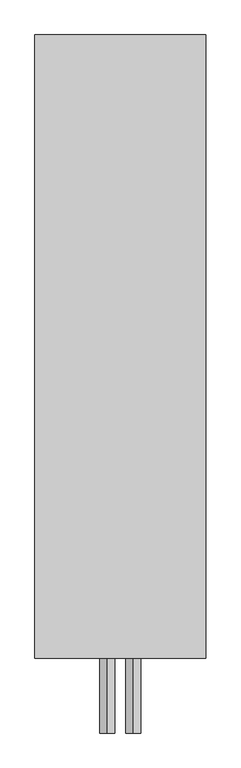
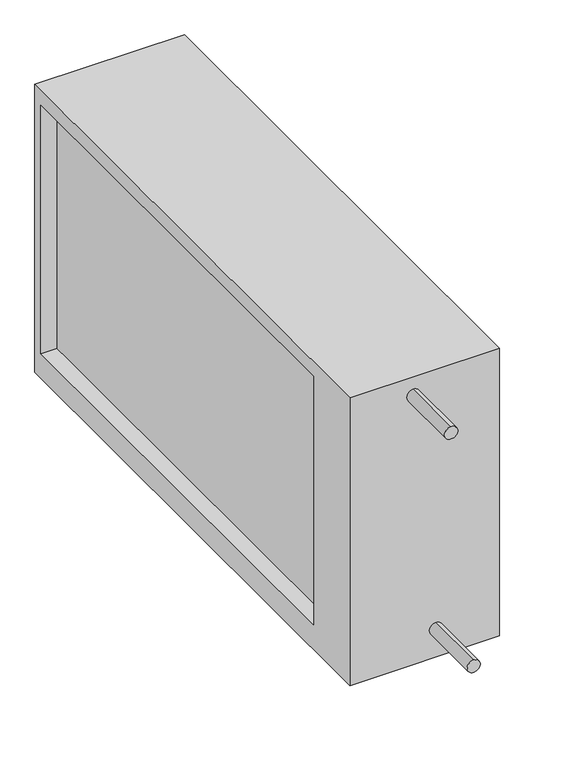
"""IFC4 building model written with IfcOpenShell, lengths in millimetres: proxy geometry, СВ_ВоздухоохладительВодяной_КанальныйПрямоугольный_200-1000_SPC-W : SPC-W-900x500-R."""

import ifcopenshell
import ifcopenshell.guid

model = None  # the IFC model being written
_history = None  # IfcOwnerHistory: only IFC2X3 demands one
_inside = {}  # id of a spatial element -> (the spatial element, [elements in it])
_under = {}  # id of a project, library or spatial element -> (it, [spatial elements below it])
_declared = {}  # id of a project -> (the project, [libraries it declares])
_typed = {}  # id of a type object -> (the type object, [elements of that type])
_made_of = {}  # id of a material, layer set ... -> (it, [elements and type objects made of it])


def new_model(schema):
    """Start an empty IFC model of exactly this schema.

    Asked for "IFC4X3", IfcOpenShell would pick the latest addendum, in which some entities
    have other attributes; the version numbers below select the first issue.
    IFC2X3 requires an IfcOwnerHistory on every rooted entity: one is made here for all.
    """
    global model, _history
    if schema == "IFC4X3":
        model = ifcopenshell.file(schema_version=(4, 3, 0, 0))
    else:
        model = ifcopenshell.file(schema=schema)
    _inside.clear()
    _under.clear()
    _declared.clear()
    _typed.clear()
    _made_of.clear()
    _history = None
    if model.schema == "IFC2X3":
        org = make("IfcOrganization", Name="unknown")
        user = make(
            "IfcPersonAndOrganization",
            ThePerson=make("IfcPerson", FamilyName="unknown"),
            TheOrganization=org,
        )
        app = make(
            "IfcApplication",
            ApplicationDeveloper=org,
            Version="unknown",
            ApplicationFullName="unknown",
            ApplicationIdentifier="unknown",
        )
        _history = make(
            "IfcOwnerHistory",
            OwningUser=user,
            OwningApplication=app,
            ChangeAction="ADDED",
            CreationDate=0,
        )
    return model


def make(cls, **values):
    """One entity of the class cls with the attributes given. An attribute that is None is left unset."""
    return model.create_entity(
        cls, **{name: value for name, value in values.items() if value is not None}
    )


def rooted(cls, **values):
    """An entity with a GlobalId (a new one), such as an element, a storey or a relation."""
    return make(cls, GlobalId=ifcopenshell.guid.new(), OwnerHistory=_history, **values)


def si_unit(unit_type, name, prefix=None):
    """IfcSIUnit, for example si_unit("LENGTHUNIT", "METRE", prefix="MILLI")."""
    return make("IfcSIUnit", UnitType=unit_type, Prefix=prefix, Name=name)


def assignment(units):
    """IfcUnitAssignment: the units of a project."""
    return None if units is None else make("IfcUnitAssignment", Units=units)


def point(xyz):
    """IfcCartesianPoint."""
    return None if xyz is None else make("IfcCartesianPoint", Coordinates=xyz)


def direction(xyz):
    """IfcDirection."""
    return None if xyz is None else make("IfcDirection", DirectionRatios=xyz)


def frame(location, z_axis=None, x_axis=None):
    """IfcAxis2Placement3D, a coordinate frame: its origin and axes. An axis left out is left unset."""
    return make(
        "IfcAxis2Placement3D",
        Location=point(location),
        Axis=direction(z_axis),
        RefDirection=direction(x_axis),
    )


def frame_2d(location, x_axis=None):
    """IfcAxis2Placement2D, a coordinate frame in the plane: its origin and x axis."""
    return make(
        "IfcAxis2Placement2D", Location=point(location), RefDirection=direction(x_axis)
    )


def origin():
    """The frame at (0, 0, 0) with its axes left unset."""
    return frame((0.0, 0.0, 0.0))


def place(relative_to, where):
    """IfcLocalPlacement: puts the frame where relative to a parent placement (None: the world)."""
    return make(
        "IfcLocalPlacement", PlacementRelTo=relative_to, RelativePlacement=where
    )


def context(
    kind, dimensions, precision=None, world=None, true_north=None, identifier=None
):
    """IfcGeometricRepresentationContext, for example the 3D "Model" context."""
    return make(
        "IfcGeometricRepresentationContext",
        ContextIdentifier=identifier,
        ContextType=kind,
        CoordinateSpaceDimension=dimensions,
        Precision=precision,
        WorldCoordinateSystem=world,
        TrueNorth=true_north,
    )


def project(units=None, contexts=None):
    """IfcProject with its units and contexts."""
    return rooted(
        "IfcProject",
        Name="project",
        RepresentationContexts=contexts,
        UnitsInContext=assignment(units),
    )


def spatial(cls, under=None, at=None, **own):
    """A site, building, storey or space (cls), placed at a placement, below another one or the project."""
    s = rooted(cls, ObjectPlacement=at, **own)
    if under is not None:
        _under.setdefault(under.id(), (under, []))[1].append(s)
    return s


def polyline(points):
    """IfcPolyline through the points."""
    return make("IfcPolyline", Points=[point(p) for p in points])


def circle_curve(where, radius):
    """IfcCircle in the frame where."""
    return make("IfcCircle", Position=where, Radius=radius)


def trimmed(basis, trim1, trim2, sense, master):
    """IfcTrimmedCurve: the piece of a basis curve between two trims."""
    return make(
        "IfcTrimmedCurve",
        BasisCurve=basis,
        Trim1=trim1,
        Trim2=trim2,
        SenseAgreement=sense,
        MasterRepresentation=master,
    )


def segment(curve, same_sense, transition):
    """IfcCompositeCurveSegment."""
    return make(
        "IfcCompositeCurveSegment",
        Transition=transition,
        SameSense=same_sense,
        ParentCurve=curve,
    )


def composite_curve(segments, self_intersect=None):
    """IfcCompositeCurve: segments joined end to end."""
    return make("IfcCompositeCurve", Segments=segments, SelfIntersect=self_intersect)


def outline(outer, holes=None, kind="AREA"):
    """IfcArbitraryClosedProfileDef: a profile drawn as a closed curve; with holes, ...WithVoids."""
    if holes is None:
        return make("IfcArbitraryClosedProfileDef", ProfileType=kind, OuterCurve=outer)
    return make(
        "IfcArbitraryProfileDefWithVoids",
        ProfileType=kind,
        OuterCurve=outer,
        InnerCurves=holes,
    )


def extrude(swept, where, along, depth):
    """IfcExtrudedAreaSolid: the profile swept, set in the frame where, extruded along a direction by depth."""
    return make(
        "IfcExtrudedAreaSolid",
        SweptArea=swept,
        Position=where,
        ExtrudedDirection=direction(along),
        Depth=depth,
    )


def shape(context_of_items, identifier, shape_type, items):
    """IfcShapeRepresentation: the items that make up one representation, for example the "Body"."""
    return make(
        "IfcShapeRepresentation",
        ContextOfItems=context_of_items,
        RepresentationIdentifier=identifier,
        RepresentationType=shape_type,
        Items=items,
    )


def source(mapping_origin, context_of_items, identifier, shape_type, items):
    """IfcRepresentationMap: a shape defined once, which mapped items show again and again."""
    return make(
        "IfcRepresentationMap",
        MappingOrigin=mapping_origin,
        MappedRepresentation=shape(context_of_items, identifier, shape_type, items),
    )


def transform(
    local_origin,
    x_axis=None,
    y_axis=None,
    z_axis=None,
    scale=None,
    scale2=None,
    scale3=None,
    uniform=True,
):
    """IfcCartesianTransformationOperator3D, or its non-uniform kind. x_axis, y_axis, z_axis: its Axis1, 2, 3."""
    if uniform:
        return make(
            "IfcCartesianTransformationOperator3D",
            Axis1=direction(x_axis),
            Axis2=direction(y_axis),
            LocalOrigin=point(local_origin),
            Scale=scale,
            Axis3=direction(z_axis),
        )
    return make(
        "IfcCartesianTransformationOperator3DnonUniform",
        Axis1=direction(x_axis),
        Axis2=direction(y_axis),
        LocalOrigin=point(local_origin),
        Scale=scale,
        Axis3=direction(z_axis),
        Scale2=scale2,
        Scale3=scale3,
    )


def mapped(mapping_source, mapping_target):
    """IfcMappedItem: shows the shape of a source again, moved by a transform."""
    return make(
        "IfcMappedItem", MappingSource=mapping_source, MappingTarget=mapping_target
    )


def made_of(thing, what):
    """Note that an element or type object is made of a material, layer set ...; save() writes the relation."""
    if what is not None:
        _made_of.setdefault(what.id(), (what, []))[1].append(thing)
    return thing


def element(
    cls,
    number,
    at=None,
    inside=None,
    cuts=None,
    type_object=None,
    material=None,
    context=None,
    identifier="Body",
    shape_type=None,
    held_by="IfcProductDefinitionShape",
    body=None,
    shapes=None,
    **own,
):
    """One element of the class cls, such as IfcWall. Its Tag is "e" and its number.

    at: its placement. inside: the storey or other place that contains it. cuts: it is an
    opening in that element (IfcRelVoidsElement). A single representation is given by context,
    identifier, shape_type and body (its items); several are given by shapes. held_by: the class
    of the entity that holds the representations. save() writes the other relations.
    """
    e = rooted(cls, Tag="e%d" % number, ObjectPlacement=at, **own)
    if body is not None:
        shapes = [shape(context, identifier, shape_type, body)]
    if shapes is not None:
        e.Representation = make(held_by, Representations=shapes)
    if inside is not None:
        _inside.setdefault(inside.id(), (inside, []))[1].append(e)
    if cuts is not None:
        rooted(
            "IfcRelVoidsElement", RelatingBuildingElement=cuts, RelatedOpeningElement=e
        )
    if type_object is not None:
        _typed.setdefault(type_object.id(), (type_object, []))[1].append(e)
    return made_of(e, material)


def aggregate(whole, parts):
    """IfcRelAggregates: a whole, such as a stair, and the parts it consists of."""
    return rooted("IfcRelAggregates", RelatingObject=whole, RelatedObjects=parts)


def save(model, path):
    """Write the relations noted so far, then the file.

    IfcRelAggregates (storeys below a building ...), IfcRelContainedInSpatialStructure (elements
    in a storey), IfcRelDefinesByType, IfcRelAssociatesMaterial and IfcRelDeclares: one each for
    every whole, place, type object, material and project.
    """
    for whole, parts in _under.values():
        aggregate(whole, parts)
    for where, things in _inside.values():
        rooted(
            "IfcRelContainedInSpatialStructure",
            RelatedElements=things,
            RelatingStructure=where,
        )
    for kind, things in _typed.values():
        rooted("IfcRelDefinesByType", RelatedObjects=things, RelatingType=kind)
    for what, things in _made_of.values():
        rooted("IfcRelAssociatesMaterial", RelatedObjects=things, RelatingMaterial=what)
    for by, libraries in _declared.values():
        rooted("IfcRelDeclares", RelatingContext=by, RelatedDefinitions=libraries)
    model.write(path)


def mechanical_equipment_2f188b7c(model_context):
    return source(origin(), model_context, "Body", "SweptSolid", [
        extrude(outline(polyline([(-570.0, -300.0), (-570.0, 280.0), (470.0, 280.0), (470.0, -300.0), (-570.0, -300.0)]), holes=[polyline([(-450.0, 250.0), (-450.0, -250.0), (450.0, -250.0), (450.0, 250.0), (-450.0, 250.0)])]), frame((-142.5, 0.0, 0.0), z_axis=(1.0, 0.0, 0.0), x_axis=(0.0, 1.0, 0.0)), (0.0, 0.0, 1.0), 285.0),
        extrude(outline(composite_curve([segment(trimmed(circle_curve(frame_2d((-242.5, 21.5)), 12.5), [point((-230.0, 21.5))], [point((-255.0, 21.5))], False, "CARTESIAN"), True, "CONTINUOUS"), segment(trimmed(circle_curve(frame_2d((-242.5, 21.5)), 12.5), [point((-255.0, 21.5))], [point((-230.0, 21.5))], False, "CARTESIAN"), True, "CONTINUOUS")], self_intersect=False)), frame((0.0, -695.0, 0.0), z_axis=(0.0, 1.0, 0.0), x_axis=(0.0, 0.0, 1.0)), (0.0, 0.0, 1.0), 125.0),
        extrude(outline(composite_curve([segment(trimmed(circle_curve(frame_2d((242.5, -21.5)), 12.5), [point((255.0, -21.5))], [point((230.0, -21.5))], False, "CARTESIAN"), True, "CONTINUOUS"), segment(trimmed(circle_curve(frame_2d((242.5, -21.5)), 12.5), [point((230.0, -21.5))], [point((255.0, -21.5))], False, "CARTESIAN"), True, "CONTINUOUS")], self_intersect=False)), frame((0.0, -695.0, 0.0), z_axis=(0.0, 1.0, 0.0), x_axis=(0.0, 0.0, 1.0)), (0.0, 0.0, 1.0), 125.0),
        extrude(outline(composite_curve([segment(trimmed(circle_curve(frame_2d((0.0, -530.0)), 11.0), [point((-11.0, -530.0))], [point((11.0, -530.0))], False, "CARTESIAN"), True, "CONTINUOUS"), segment(trimmed(circle_curve(frame_2d((0.0, -530.0)), 11.0), [point((11.0, -530.0))], [point((-11.0, -530.0))], False, "CARTESIAN"), True, "CONTINUOUS")], self_intersect=False)), frame((0.0, 0.0, -320.0), z_axis=(0.0, 0.0, 1.0), x_axis=(1.0, 0.0, 0.0)), (0.0, 0.0, 1.0), 20.0),
        extrude(outline(polyline([(112.5, 450.0), (112.5, -450.0), (-112.5, -450.0), (-112.5, 450.0), (112.5, 450.0)])), frame((0.0, 0.0, -250.0), z_axis=(0.0, 0.0, 1.0), x_axis=(1.0, 0.0, 0.0)), (0.0, 0.0, 1.0), 500.0),
    ])


if __name__ == "__main__":
    model = new_model("IFC4")
    model_context = context("Model", 3, world=origin())
    ifc_project = project(units=[si_unit("LENGTHUNIT", "METRE", prefix="MILLI")], contexts=[model_context])
    site = spatial("IfcSite", under=ifc_project)
    building = spatial("IfcBuilding", under=site)
    placement = place(None, origin())
    mechanical_equipment_shape = mechanical_equipment_2f188b7c(model_context)
    element("IfcBuildingElementProxy", 1, Name="СВ_ВоздухоохладительВодяной_КанальныйПрямоугольный_200-1000_SPC-W : SPC-W-900x500-R", ObjectType="СВ_ВоздухоохладительВодяной_КанальныйПрямоугольный_200-1000_SPC-W : SPC-W-900x500-R", at=placement, inside=building, context=model_context, shape_type="MappedRepresentation", body=[
        mapped(mechanical_equipment_shape, transform((0.0, 0.0, 0.0), x_axis=(1.0, 0.0, 0.0), y_axis=(0.0, 1.0, 0.0), z_axis=(0.0, 0.0, 1.0))),
    ])
    save(model, "model.ifc")
